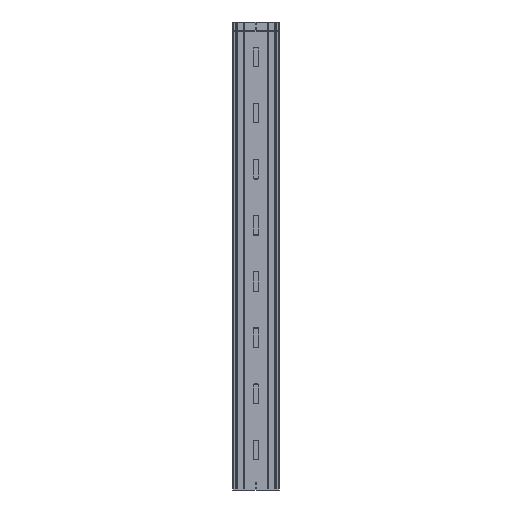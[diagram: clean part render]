
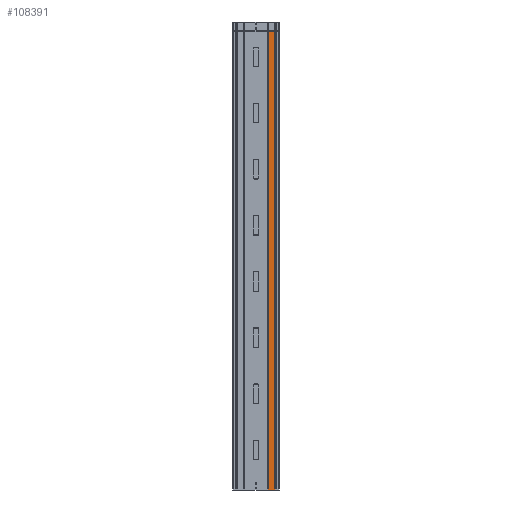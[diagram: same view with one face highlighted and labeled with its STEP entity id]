
A CAD part, front view. The second image highlights one B-rep face of the part: STEP entity #108391.
In plain terms, the highlighted planar face has unit normal (0, -1, 0).
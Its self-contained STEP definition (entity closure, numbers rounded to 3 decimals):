
#2211 = DIRECTION ( 'NONE',  ( 0., 0., 1. ) ) ;
#10545 = CARTESIAN_POINT ( 'NONE',  ( 79.456, 0., 0. ) ) ;
#14570 = CARTESIAN_POINT ( 'NONE',  ( 120.544, 0., -2941.5 ) ) ;
#22922 = VECTOR ( 'NONE', #138037, 1000. ) ;
#24066 = CARTESIAN_POINT ( 'NONE',  ( 79.456, 0., 0. ) ) ;
#25730 = CARTESIAN_POINT ( 'NONE',  ( 93.152, 0., 0. ) ) ;
#28979 = CARTESIAN_POINT ( 'NONE',  ( 120.544, 0., -2941.5 ) ) ;
#29481 = LINE ( 'NONE', #251718, #108881 ) ;
#34340 = ORIENTED_EDGE ( 'NONE', *, *, #105183, .T. ) ;
#39462 = EDGE_CURVE ( 'NONE', #262109, #102283, #68221, .T. ) ;
#68221 = B_SPLINE_CURVE_WITH_KNOTS ( 'NONE', 3,
 ( #24066, #25730, #122476, #272563 ),
 .UNSPECIFIED., .F., .F.,
 ( 4, 4 ),
 ( 0., 1. ),
 .UNSPECIFIED. ) ;
#90116 = EDGE_CURVE ( 'NONE', #176198, #262109, #29481, .T. ) ;
#102283 = VERTEX_POINT ( 'NONE', #128058 ) ;
#105183 = EDGE_CURVE ( 'NONE', #176198, #236019, #264751, .T. ) ;
#108391 = ADVANCED_FACE ( 'NONE', ( #167935 ), #219593, .T. ) ;
#108881 = VECTOR ( 'NONE', #157832, 1000. ) ;
#122476 = CARTESIAN_POINT ( 'NONE',  ( 106.848, 0., 0. ) ) ;
#124597 = ORIENTED_EDGE ( 'NONE', *, *, #39462, .F. ) ;
#128058 = CARTESIAN_POINT ( 'NONE',  ( 120.544, 0., 0. ) ) ;
#138037 = DIRECTION ( 'NONE',  ( 1., 0., 0. ) ) ;
#155546 = CARTESIAN_POINT ( 'NONE',  ( 120.544, 0., -2941.5 ) ) ;
#157832 = DIRECTION ( 'NONE',  ( 0., 0., 1. ) ) ;
#167935 = FACE_OUTER_BOUND ( 'NONE', #310887, .T. ) ;
#173727 = ORIENTED_EDGE ( 'NONE', *, *, #227580, .T. ) ;
#176198 = VERTEX_POINT ( 'NONE', #312288 ) ;
#179859 = ORIENTED_EDGE ( 'NONE', *, *, #90116, .F. ) ;
#180573 = LINE ( 'NONE', #155546, #213862 ) ;
#184788 = CARTESIAN_POINT ( 'NONE',  ( 120.544, 0., -2941.5 ) ) ;
#213862 = VECTOR ( 'NONE', #2211, 1000. ) ;
#219593 = PLANE ( 'NONE',  #269484 ) ;
#227580 = EDGE_CURVE ( 'NONE', #236019, #102283, #180573, .T. ) ;
#236019 = VERTEX_POINT ( 'NONE', #28979 ) ;
#251718 = CARTESIAN_POINT ( 'NONE',  ( 79.456, 0., -2941.5 ) ) ;
#262109 = VERTEX_POINT ( 'NONE', #10545 ) ;
#264751 = LINE ( 'NONE', #184788, #22922 ) ;
#269484 = AXIS2_PLACEMENT_3D ( 'NONE', #14570, #321303, #271263 ) ;
#271263 = DIRECTION ( 'NONE',  ( 1., 0., 0. ) ) ;
#272563 = CARTESIAN_POINT ( 'NONE',  ( 120.544, 0., 0. ) ) ;
#310887 = EDGE_LOOP ( 'NONE', ( #124597, #179859, #34340, #173727 ) ) ;
#312288 = CARTESIAN_POINT ( 'NONE',  ( 79.456, 0., -2941.5 ) ) ;
#321303 = DIRECTION ( 'NONE',  ( 0., -1., 0. ) ) ;
